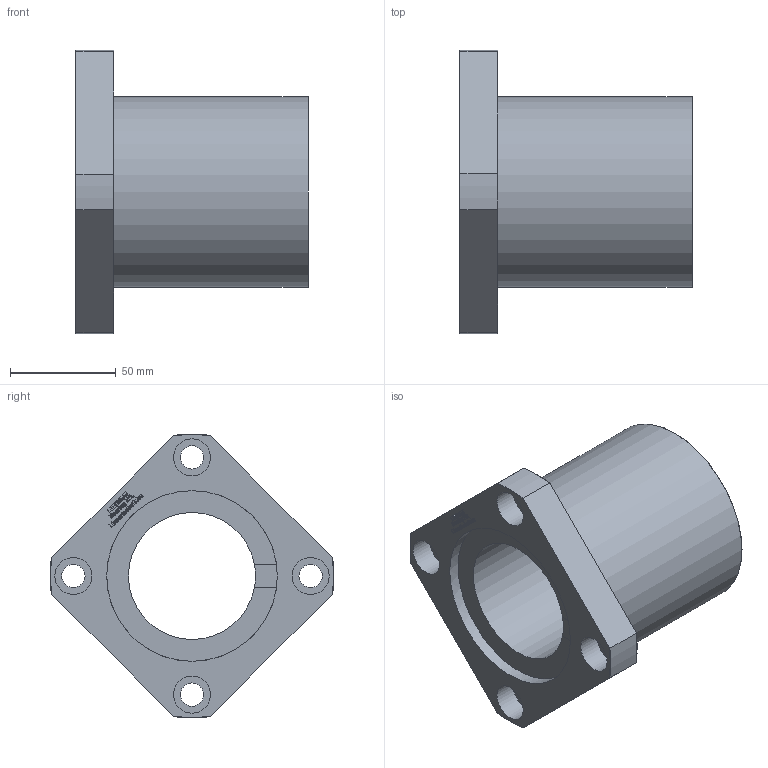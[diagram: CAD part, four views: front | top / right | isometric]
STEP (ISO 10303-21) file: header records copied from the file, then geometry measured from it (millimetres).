
FILE_DESCRIPTION(/* description */ (''),/* implementation_level */ '2;1');
FILE_NAME(/* name */ 'LMK60UU',/* time_stamp */ '2019-07-09T15:13:41+02:00',/* author */ ('VĂ©gh MĂˇtĂ©'),/* organization */ ('Bearing Kft'),/* preprocessor_version */ 'ST-DEVELOPER v16.7',/* originating_system */ 'DEX',/* authorisation */ $);
FILE_SCHEMA (('AUTOMOTIVE_DESIGN {1 0 10303 214 3 1 1}'));
Length unit declared in the file: millimetre
Products named in the file (1): LMK60UU
Bounding box: 110 x 133.88 x 133.88 mm (x, y, z)
Volume: 433574.2 mm3; surface area: 73481.6 mm2
Topology: 1 solids, 1 shells, 342 faces, 861 edges, 573 vertices
Faces by surface type: plane 255, bspline 60, cylinder 18, torus 9
Full cylindrical faces by diameter (mm): 11 x4, 17.5 x4, 60 x1, 80.6 x2, 90 x1
Entity records: 13173 total; most frequent: CARTESIAN_POINT 5364, ORIENTED_EDGE 1684, DIRECTION 1321, EDGE_CURVE 842, LINE 657, VECTOR 657, VERTEX_POINT 571, EDGE_LOOP 421
